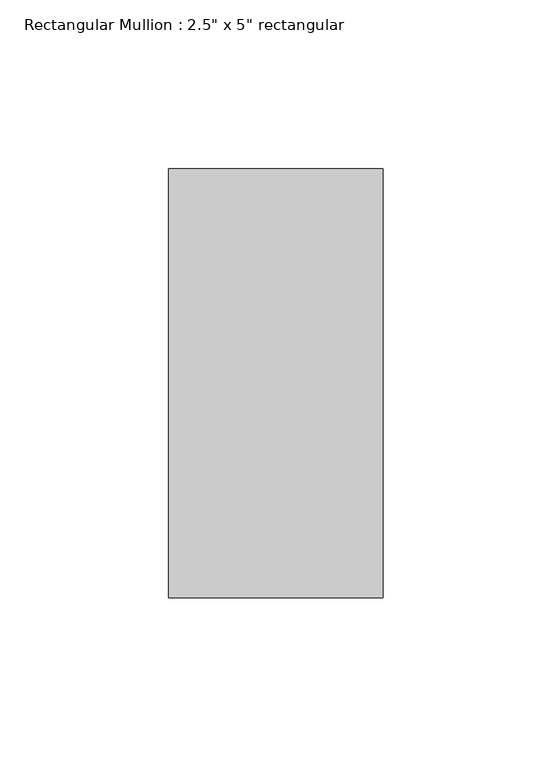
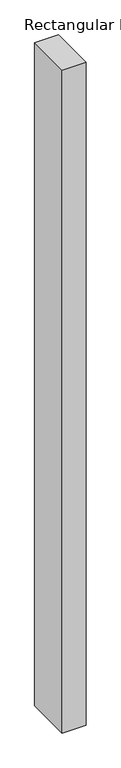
"""IFC4 building model written with IfcOpenShell, lengths in millimetres: member geometry."""

from ifc_helpers import new_model, si_unit, frame, origin, place, context, project, spatial, polyline, outline, extrude, source, transform, mapped, element, save


def member_fd47e183(model_context):
    return source(origin(), model_context, "Body", "SweptSolid", [
        extrude(outline(polyline([(31.75, 63.5), (31.75, -63.5), (-31.75, -63.5), (-31.75, 63.5), (31.75, 63.5)])), frame((0.0, 0.0, -1866.9), z_axis=(0.0, 0.0, 1.0), x_axis=(1.0, 0.0, 0.0)), (0.0, 0.0, 1.0), 1866.9),
    ])


if __name__ == "__main__":
    model = new_model("IFC4")
    model_context = context("Model", 3, world=origin())
    ifc_project = project(units=[si_unit("LENGTHUNIT", "METRE", prefix="MILLI")], contexts=[model_context])
    site = spatial("IfcSite", under=ifc_project)
    building = spatial("IfcBuilding", under=site)
    placement = place(None, origin())
    member_shape = member_fd47e183(model_context)
    element("IfcMember", 1, ObjectType="Rectangular Mullion : 2.5\" x 5\" rectangular", at=placement, inside=building, context=model_context, shape_type="MappedRepresentation", body=[
        mapped(member_shape, transform((0.0, 0.0, 0.0), x_axis=(1.0, 0.0, 0.0), y_axis=(0.0, 1.0, 0.0), z_axis=(0.0, 0.0, 1.0))),
    ])
    save(model, "model.ifc")
